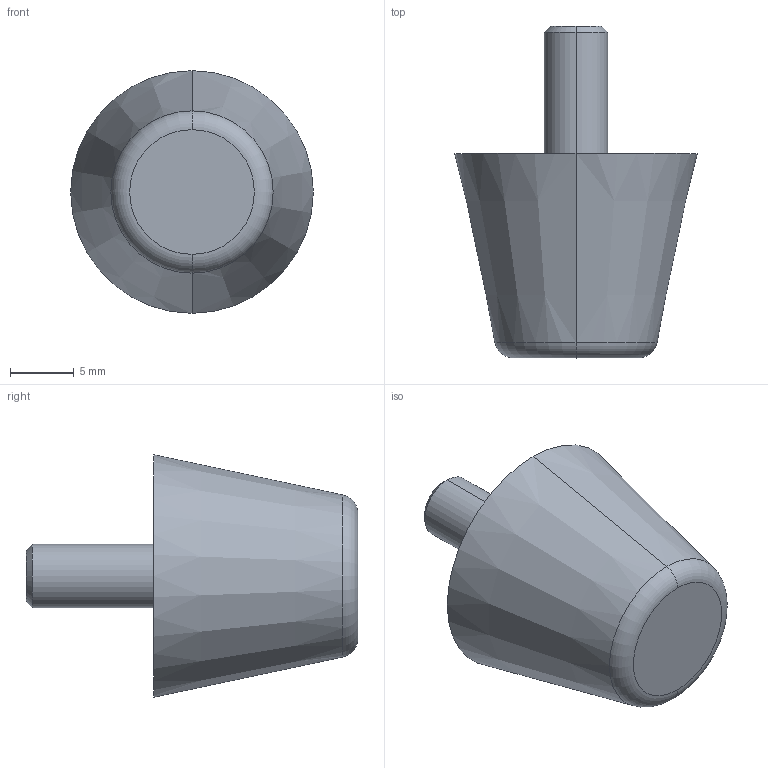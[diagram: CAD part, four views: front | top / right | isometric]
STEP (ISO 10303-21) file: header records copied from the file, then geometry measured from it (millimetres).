
FILE_DESCRIPTION (( 'STEP AP214' ), '1' );
FILE_NAME ('253-19-M5-10-40.step', '2023-03-24T07:36:59', ( '' ), ( '' ), 'SwSTEP 2.0', 'SolidWorks 2022', '' );
FILE_SCHEMA (( 'AUTOMOTIVE_DESIGN' ));
Length unit declared in the file: millimetre
Products named in the file (1): 253-19-M5-10-40
Bounding box: 19 x 25.99 x 19 mm (x, y, z)
Volume: 3288.8 mm3; surface area: 1339 mm2
Topology: 1 solids, 1 shells, 14 faces, 26 edges, 16 vertices
Faces by surface type: cone 6, plane 4, cylinder 2, torus 2
Entity records: 500 total; most frequent: DIRECTION 74, CARTESIAN_POINT 57, ORIENTED_EDGE 52, AXIS2_PLACEMENT_3D 33, EDGE_CURVE 26, CIRCLE 18, VERTEX_POINT 16, EDGE_LOOP 16
